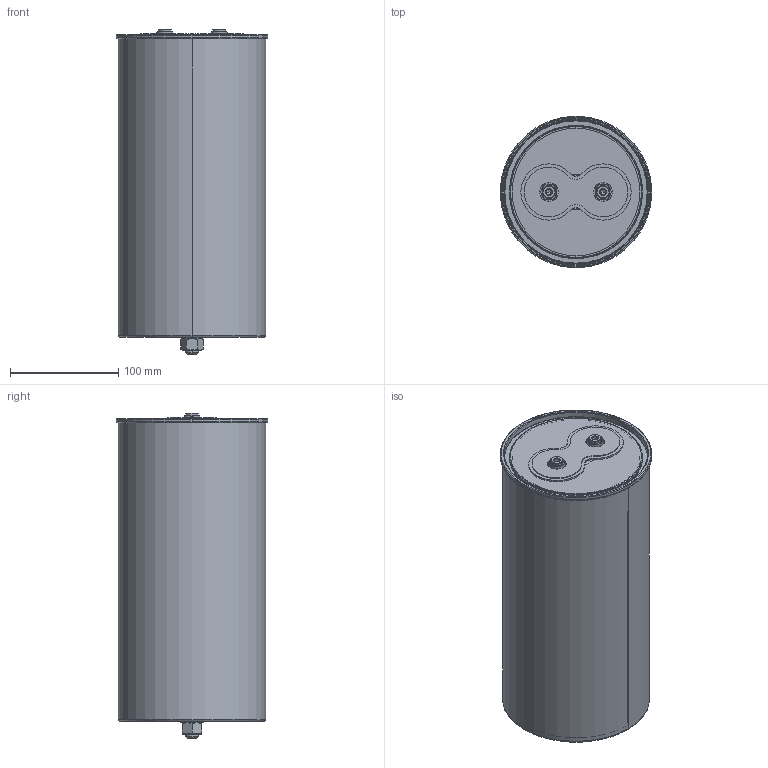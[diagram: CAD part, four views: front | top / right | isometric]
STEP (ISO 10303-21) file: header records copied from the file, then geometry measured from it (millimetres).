
FILE_DESCRIPTION (( 'STEP AP203' ), '1' );
FILE_NAME ('B25680Bx_136x280_285.STEP', '2021-09-30T07:11:25', ( '' ), ( '' ), 'SwSTEP 2.0', 'SolidWorks 2017', '' );
FILE_SCHEMA (( 'CONFIG_CONTROL_DESIGN' ));
Length unit declared in the file: millimetre
Products named in the file (1): B25680Bx_136x280_285
Bounding box: 140 x 140 x 301 mm (x, y, z)
Volume: 202868.6 mm3; surface area: 325815.4 mm2
Topology: 1 solids, 8 shells, 381 faces, 906 edges, 572 vertices
Faces by surface type: plane 151, cylinder 140, cone 34, torus 32, bspline 24
Entity records: 14153 total; most frequent: CARTESIAN_POINT 5048, DIRECTION 2028, ORIENTED_EDGE 1804, EDGE_CURVE 902, AXIS2_PLACEMENT_3D 820, VERTEX_POINT 572, CIRCLE 462, EDGE_LOOP 430
